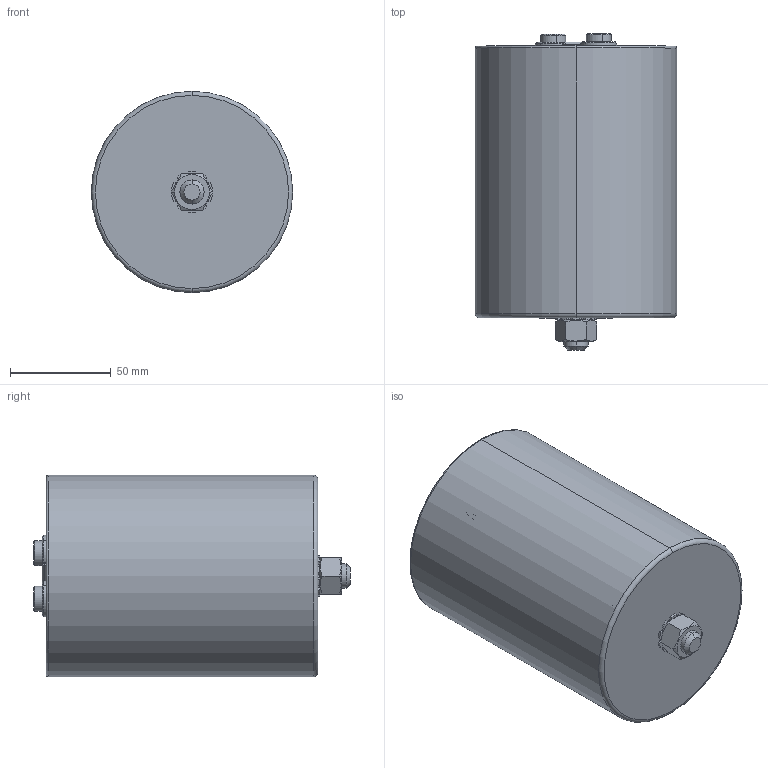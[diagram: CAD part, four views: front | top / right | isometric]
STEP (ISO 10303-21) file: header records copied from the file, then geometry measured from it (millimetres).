
FILE_DESCRIPTION (( 'STEP AP203' ), '1' );
FILE_NAME ('B25690Ax_100x135_141.STEP', '2021-09-07T01:31:01', ( '' ), ( '' ), 'SwSTEP 2.0', 'SolidWorks 2017', '' );
FILE_SCHEMA (( 'CONFIG_CONTROL_DESIGN' ));
Length unit declared in the file: millimetre
Products named in the file (1): B25690Ax_100x135_141
Bounding box: 100 x 157 x 100 mm (x, y, z)
Volume: 134806.4 mm3; surface area: 130934.1 mm2
Topology: 1 solids, 3 shells, 256 faces, 655 edges, 415 vertices
Faces by surface type: plane 133, cylinder 73, cone 40, torus 10
Entity records: 8057 total; most frequent: CARTESIAN_POINT 1865, DIRECTION 1310, ORIENTED_EDGE 1310, EDGE_CURVE 655, AXIS2_PLACEMENT_3D 516, VERTEX_POINT 415, VECTOR 278, LINE 278
